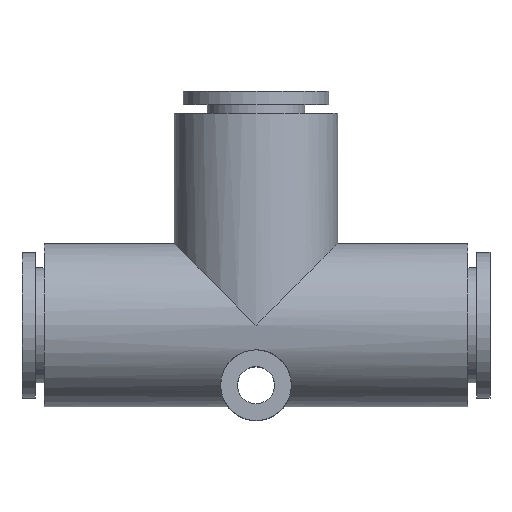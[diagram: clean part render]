
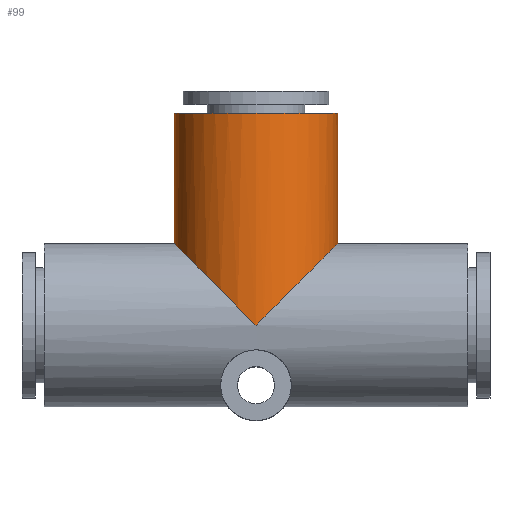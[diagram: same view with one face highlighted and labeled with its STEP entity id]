
A CAD part, top view. The second image highlights one B-rep face of the part: STEP entity #99.
In plain terms, the highlighted cylindrical face has radius 9.25 mm (diameter 18.5 mm), a partial arc.
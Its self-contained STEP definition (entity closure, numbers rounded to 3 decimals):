
#99 = ADVANCED_FACE( '', ( #167 ), #168, .T. );
#167 = FACE_OUTER_BOUND( '', #260, .T. );
#168 = CYLINDRICAL_SURFACE( '', #261, 9.25 );
#260 = EDGE_LOOP( '', ( #479, #480, #481, #482, #483 ) );
#261 = AXIS2_PLACEMENT_3D( '', #484, #485, #486 );
#479 = ORIENTED_EDGE( '', *, *, #641, .T. );
#480 = ORIENTED_EDGE( '', *, *, #679, .F. );
#481 = ORIENTED_EDGE( '', *, *, #642, .T. );
#482 = ORIENTED_EDGE( '', *, *, #680, .F. );
#483 = ORIENTED_EDGE( '', *, *, #681, .F. );
#484 = CARTESIAN_POINT( '', ( 0., 12., 0. ) );
#485 = DIRECTION( '', ( 0., -1., 0. ) );
#486 = DIRECTION( '', ( 1., 0., 0. ) );
#641 = EDGE_CURVE( '', #713, #766, #767, .T. );
#642 = EDGE_CURVE( '', #768, #729, #769, .T. );
#679 = EDGE_CURVE( '', #768, #766, #828, .T. );
#680 = EDGE_CURVE( '', #829, #729, #830, .T. );
#681 = EDGE_CURVE( '', #713, #829, #831, .T. );
#713 = VERTEX_POINT( '', #867 );
#729 = VERTEX_POINT( '', #949 );
#766 = VERTEX_POINT( '', #995 );
#767 = LINE( '', #996, #997 );
#768 = VERTEX_POINT( '', #998 );
#769 = LINE( '', #999, #1000 );
#828 = CIRCLE( '', #1134, 9.25 );
#829 = VERTEX_POINT( '', #1135 );
#830 = ELLIPSE( '', #1136, 13.081, 9.25 );
#831 = ELLIPSE( '', #1137, 13.081, 9.25 );
#867 = CARTESIAN_POINT( '', ( 9.25, 9.25, 0. ) );
#949 = CARTESIAN_POINT( '', ( -9.25, 9.25, 0. ) );
#995 = CARTESIAN_POINT( '', ( 9.25, 24., 0. ) );
#996 = CARTESIAN_POINT( '', ( 9.25, 12., 0. ) );
#997 = VECTOR( '', #1216, 1. );
#998 = CARTESIAN_POINT( '', ( -9.25, 24., 0. ) );
#999 = CARTESIAN_POINT( '', ( -9.25, 12., 0. ) );
#1000 = VECTOR( '', #1217, 1. );
#1134 = AXIS2_PLACEMENT_3D( '', #1293, #1294, #1295 );
#1135 = CARTESIAN_POINT( '', ( 0., 0., 9.25 ) );
#1136 = AXIS2_PLACEMENT_3D( '', #1296, #1297, #1298 );
#1137 = AXIS2_PLACEMENT_3D( '', #1299, #1300, #1301 );
#1216 = DIRECTION( '', ( 0., 1., 0. ) );
#1217 = DIRECTION( '', ( 0., -1., 0. ) );
#1293 = CARTESIAN_POINT( '', ( 0., 24., 0. ) );
#1294 = DIRECTION( '', ( 0., 1., 0. ) );
#1295 = DIRECTION( '', ( 1., 0., 0. ) );
#1296 = CARTESIAN_POINT( '', ( 0., 0., 0. ) );
#1297 = DIRECTION( '', ( -0.707, -0.707, 0. ) );
#1298 = DIRECTION( '', ( 0.707, -0.707, 0. ) );
#1299 = CARTESIAN_POINT( '', ( 0., 0., 0. ) );
#1300 = DIRECTION( '', ( 0.707, -0.707, 0. ) );
#1301 = DIRECTION( '', ( 0.707, 0.707, 0. ) );
